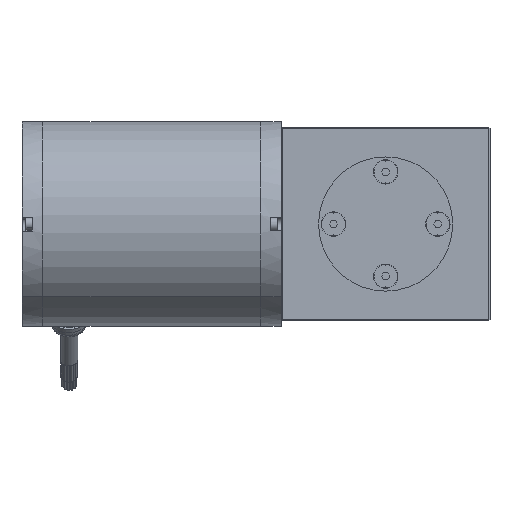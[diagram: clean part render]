
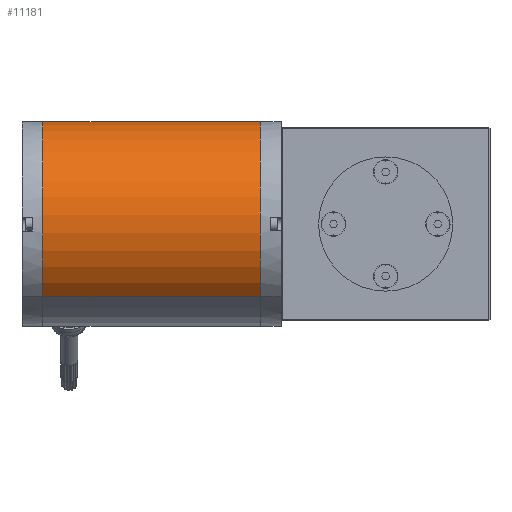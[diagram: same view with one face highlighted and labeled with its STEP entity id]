
A CAD part, left-side view. The second image highlights one B-rep face of the part: STEP entity #11181.
In plain terms, the highlighted cylindrical face has radius 43.69 mm (diameter 87.38 mm), a partial arc.
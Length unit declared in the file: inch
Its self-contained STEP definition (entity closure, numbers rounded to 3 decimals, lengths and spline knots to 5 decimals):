
#1012 = VECTOR ( 'NONE', #34072, 39.37008 ) ;
#1029 = DIRECTION ( 'NONE',  ( 0., 1., 0. ) ) ;
#2810 = VERTEX_POINT ( 'NONE', #29227 ) ;
#4344 = CARTESIAN_POINT ( 'NONE',  ( 4.371, 0.7065, 1.05007 ) ) ;
#5537 = CARTESIAN_POINT ( 'NONE',  ( 5.58728, 0.7065, 2.26635 ) ) ;
#6401 = DIRECTION ( 'NONE',  ( 0., -1., 0. ) ) ;
#8452 = LINE ( 'NONE', #20959, #1012 ) ;
#9299 = CARTESIAN_POINT ( 'NONE',  ( 4.371, 5.57161, 1.05007 ) ) ;
#9883 = VECTOR ( 'NONE', #1029, 39.37008 ) ;
#11181 = ADVANCED_FACE ( 'NONE', ( #27932 ), #48357, .T. ) ;
#14285 = ORIENTED_EDGE ( 'NONE', *, *, #39557, .T. ) ;
#14947 = VERTEX_POINT ( 'NONE', #23372 ) ;
#15747 = AXIS2_PLACEMENT_3D ( 'NONE', #31658, #6401, #53316 ) ;
#20959 = CARTESIAN_POINT ( 'NONE',  ( 3.15472, 0.7065, -0.16621 ) ) ;
#21774 = DIRECTION ( 'NONE',  ( 0.707, 0., 0.707 ) ) ;
#22879 = CARTESIAN_POINT ( 'NONE',  ( 5.58728, 9.22161, 2.26635 ) ) ;
#23372 = CARTESIAN_POINT ( 'NONE',  ( 3.15472, 5.57161, -0.16621 ) ) ;
#25679 = CIRCLE ( 'NONE', #34956, 1.72008 ) ;
#27932 = FACE_OUTER_BOUND ( 'NONE', #38001, .T. ) ;
#29227 = CARTESIAN_POINT ( 'NONE',  ( 5.58728, 5.57161, 2.26635 ) ) ;
#29716 = EDGE_CURVE ( 'NONE', #2810, #14947, #25679, .T. ) ;
#30261 = ORIENTED_EDGE ( 'NONE', *, *, #29716, .F. ) ;
#31658 = CARTESIAN_POINT ( 'NONE',  ( 4.371, 9.22161, 1.05007 ) ) ;
#33672 = EDGE_CURVE ( 'NONE', #2810, #43843, #53965, .T. ) ;
#34072 = DIRECTION ( 'NONE',  ( 0., 1., 0. ) ) ;
#34471 = EDGE_CURVE ( 'NONE', #14947, #48487, #8452, .T. ) ;
#34956 = AXIS2_PLACEMENT_3D ( 'NONE', #9299, #53123, #39309 ) ;
#38001 = EDGE_LOOP ( 'NONE', ( #45876, #30261, #42082, #14285 ) ) ;
#39309 = DIRECTION ( 'NONE',  ( -0.707, 0., -0.707 ) ) ;
#39557 = EDGE_CURVE ( 'NONE', #43843, #48487, #39633, .T. ) ;
#39610 = CARTESIAN_POINT ( 'NONE',  ( 3.15472, 9.22161, -0.16621 ) ) ;
#39633 = CIRCLE ( 'NONE', #15747, 1.72008 ) ;
#42082 = ORIENTED_EDGE ( 'NONE', *, *, #33672, .T. ) ;
#43838 = DIRECTION ( 'NONE',  ( 0., 1., 0. ) ) ;
#43843 = VERTEX_POINT ( 'NONE', #22879 ) ;
#45876 = ORIENTED_EDGE ( 'NONE', *, *, #34471, .F. ) ;
#48357 = CYLINDRICAL_SURFACE ( 'NONE', #54251, 1.72008 ) ;
#48487 = VERTEX_POINT ( 'NONE', #39610 ) ;
#53123 = DIRECTION ( 'NONE',  ( 0., -1., 0. ) ) ;
#53316 = DIRECTION ( 'NONE',  ( -0.707, 0., -0.707 ) ) ;
#53965 = LINE ( 'NONE', #5537, #9883 ) ;
#54251 = AXIS2_PLACEMENT_3D ( 'NONE', #4344, #43838, #21774 ) ;
